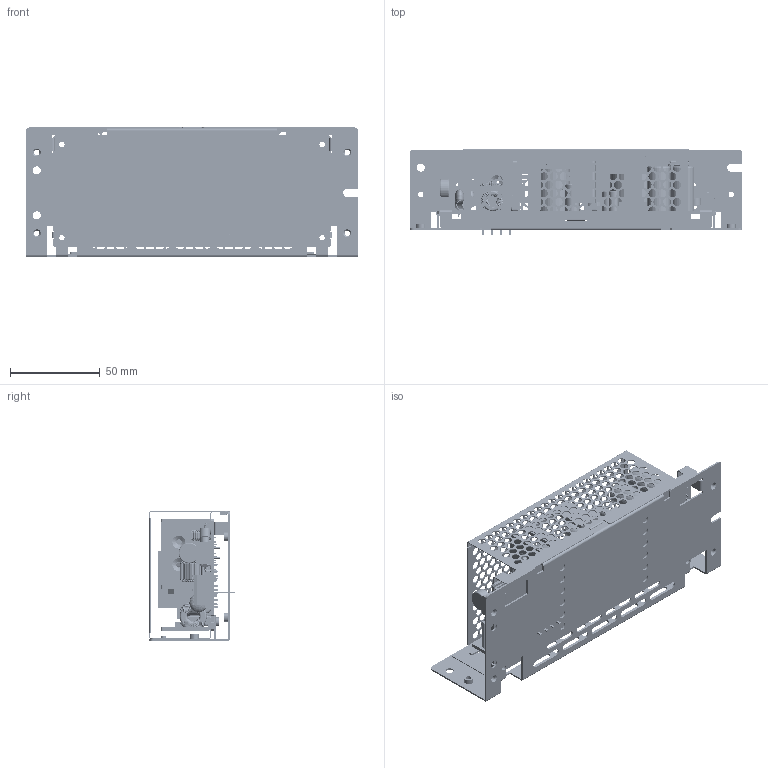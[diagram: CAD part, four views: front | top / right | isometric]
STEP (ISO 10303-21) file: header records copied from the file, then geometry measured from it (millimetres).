
FILE_DESCRIPTION((''),'2;1');
FILE_NAME('JAP_150W_ASM','2013-05-09T',('ERIC.YP.CHEN'),(''),'PRO/ENGINEER BY PARAMETRIC TECHNOLOGY CORPORATION, 2010280','PRO/ENGINEER BY PARAMETRIC TECHNOLOGY CORPORATION, 2010280','');
FILE_SCHEMA(('CONFIG_CONTROL_DESIGN'));
Products named in the file (25): 331609650101_CHASSIS; NEW_COVER; PCB; HSK2; HSK1; HSK3; CON2_BODY; B8P_VH; B2B-XH-A; VR1_; LEG1_; VR_LEG__ASM; 2875236000_FL2; 2875143500_FL1; 2876189000_L1; 2876264501_L101; 1732150C34_C2; CY1_1; D101; Q1; BD1_1; F1; NTC_HOLDER1; NTC1; JAP_150W_ASM
Assembly tree (33 placements, depth 3):
  JAP_150W_ASM
    331609650101_CHASSIS
    NEW_COVER
    PCB
    HSK2
    HSK1
    HSK3
    CON2_BODY
    B8P_VH
    B2B-XH-A
    VR_LEG__ASM
      VR1_
      LEG1_  x3
    2875236000_FL2
    2875143500_FL1
    2876189000_L1
    2876264501_L101
    1732150C34_C2  x2
    CY1_1  x3
    D101  x2
    Q1  x4
    BD1_1
    F1
    NTC_HOLDER1
    NTC1
Bounding box: 185 x 47.4 x 72 mm (x, y, z)
Volume: 112032 mm3; surface area: 128815.6 mm2
Topology: 80 solids, 86 shells, 5514 faces, 13363 edges, 7862 vertices
Faces by surface type: cylinder 2670, plane 1486, torus 1282, cone 26, bspline 26, revolution 18, sphere 6
Entity records: 164819 total; most frequent: CARTESIAN_POINT 38052, DIRECTION 28539, ORIENTED_EDGE 25162, EDGE_CURVE 12583, AXIS2_PLACEMENT_3D 11613, VERTEX_POINT 7394, CIRCLE 6377, EDGE_LOOP 6315
